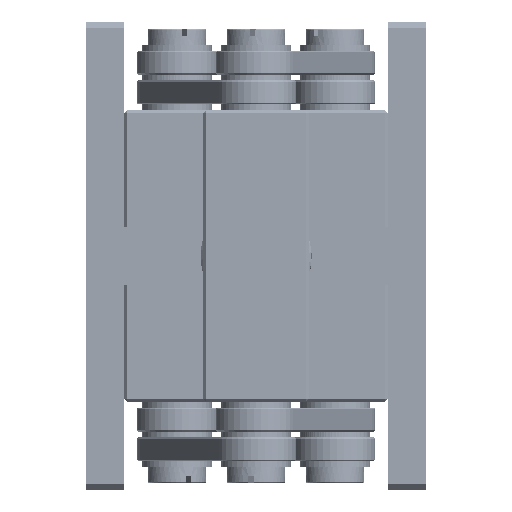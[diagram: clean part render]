
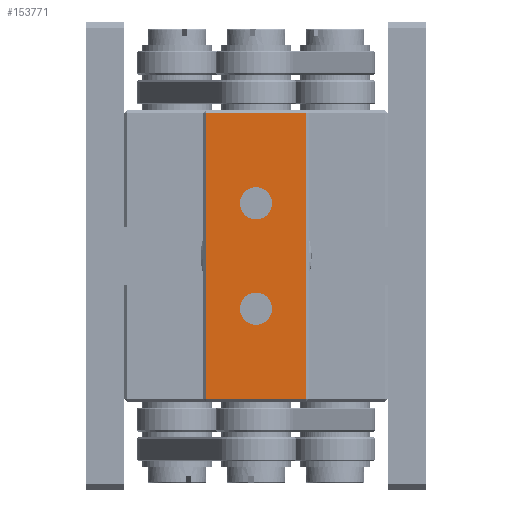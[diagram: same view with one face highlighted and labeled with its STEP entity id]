
A CAD part, left-side view. The second image highlights one B-rep face of the part: STEP entity #153771.
In plain terms, the highlighted planar face has unit normal (-1, 0, 0).
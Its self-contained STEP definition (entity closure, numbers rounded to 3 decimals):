
#967 = EDGE_LOOP ( 'NONE', ( #114399, #43695, #38982, #198750 ) ) ;
#21332 = DIRECTION ( 'NONE',  ( -1., 0., 0. ) ) ;
#29948 = CARTESIAN_POINT ( 'NONE',  ( -1.249, 29., -49. ) ) ;
#31674 = AXIS2_PLACEMENT_3D ( 'NONE', #175216, #21332, #138297 ) ;
#33039 = DIRECTION ( 'NONE',  ( 0., 1., 0. ) ) ;
#38982 = ORIENTED_EDGE ( 'NONE', *, *, #52323, .T. ) ;
#39171 = FACE_BOUND ( 'NONE', #50235, .T. ) ;
#43695 = ORIENTED_EDGE ( 'NONE', *, *, #244205, .T. ) ;
#50235 = EDGE_LOOP ( 'NONE', ( #101489 ) ) ;
#52323 = EDGE_CURVE ( 'NONE', #212645, #183321, #245536, .T. ) ;
#54164 = EDGE_LOOP ( 'NONE', ( #136095 ) ) ;
#70047 = DIRECTION ( 'NONE',  ( 0., 0., 1. ) ) ;
#70915 = VECTOR ( 'NONE', #33039, 1000. ) ;
#71293 = CARTESIAN_POINT ( 'NONE',  ( -1.249, 20.5, -15. ) ) ;
#72060 = EDGE_CURVE ( 'NONE', #212767, #212767, #129087, .T. ) ;
#80465 = EDGE_CURVE ( 'NONE', #217248, #169431, #165956, .T. ) ;
#95721 = EDGE_CURVE ( 'NONE', #183321, #217248, #169039, .T. ) ;
#97657 = PLANE ( 'NONE',  #31674 ) ;
#101489 = ORIENTED_EDGE ( 'NONE', *, *, #187628, .T. ) ;
#104329 = AXIS2_PLACEMENT_3D ( 'NONE', #29948, #114682, #107486 ) ;
#107486 = DIRECTION ( 'NONE',  ( 0., 0., -1. ) ) ;
#114399 = ORIENTED_EDGE ( 'NONE', *, *, #80465, .T. ) ;
#114682 = DIRECTION ( 'NONE',  ( 1., 0., 0. ) ) ;
#129087 = CIRCLE ( 'NONE', #173735, 2.75 ) ;
#132866 = CARTESIAN_POINT ( 'NONE',  ( -1.249, 37.5, -64.5 ) ) ;
#136095 = ORIENTED_EDGE ( 'NONE', *, *, #72060, .T. ) ;
#136917 = VECTOR ( 'NONE', #224463, 1000. ) ;
#138297 = DIRECTION ( 'NONE',  ( 0., 0., 1. ) ) ;
#144462 = VERTEX_POINT ( 'NONE', #222042 ) ;
#148733 = DIRECTION ( 'NONE',  ( 0., 0., -1. ) ) ;
#149945 = CARTESIAN_POINT ( 'NONE',  ( -1.249, 38., -15.5 ) ) ;
#151744 = CARTESIAN_POINT ( 'NONE',  ( -1.249, 20.5, -64.5 ) ) ;
#152493 = DIRECTION ( 'NONE',  ( 1., 0., 0. ) ) ;
#153771 = ADVANCED_FACE ( 'NONE', ( #157360, #39171, #193002 ), #97657, .T. ) ;
#157360 = FACE_BOUND ( 'NONE', #54164, .T. ) ;
#158266 = CARTESIAN_POINT ( 'NONE',  ( -1.249, 20.5, -15.5 ) ) ;
#163435 = CARTESIAN_POINT ( 'NONE',  ( -1.249, 37.5, -65. ) ) ;
#165956 = LINE ( 'NONE', #163435, #136917 ) ;
#169039 = LINE ( 'NONE', #149945, #70915 ) ;
#169431 = VERTEX_POINT ( 'NONE', #132866 ) ;
#173735 = AXIS2_PLACEMENT_3D ( 'NONE', #190656, #152493, #148733 ) ;
#175216 = CARTESIAN_POINT ( 'NONE',  ( -1.249, 20., -15. ) ) ;
#175980 = CARTESIAN_POINT ( 'NONE',  ( -1.249, 20., -64.5 ) ) ;
#180957 = DIRECTION ( 'NONE',  ( 0., -1., 0. ) ) ;
#183321 = VERTEX_POINT ( 'NONE', #158266 ) ;
#187628 = EDGE_CURVE ( 'NONE', #144462, #144462, #226181, .T. ) ;
#190656 = CARTESIAN_POINT ( 'NONE',  ( -1.249, 29., -31. ) ) ;
#190844 = VECTOR ( 'NONE', #70047, 1000. ) ;
#193002 = FACE_OUTER_BOUND ( 'NONE', #967, .T. ) ;
#195269 = VECTOR ( 'NONE', #180957, 1000. ) ;
#198750 = ORIENTED_EDGE ( 'NONE', *, *, #95721, .T. ) ;
#198797 = LINE ( 'NONE', #175980, #195269 ) ;
#207880 = CARTESIAN_POINT ( 'NONE',  ( -1.249, 37.5, -15.5 ) ) ;
#210266 = CARTESIAN_POINT ( 'NONE',  ( -1.249, 29., -33.75 ) ) ;
#212645 = VERTEX_POINT ( 'NONE', #151744 ) ;
#212767 = VERTEX_POINT ( 'NONE', #210266 ) ;
#217248 = VERTEX_POINT ( 'NONE', #207880 ) ;
#222042 = CARTESIAN_POINT ( 'NONE',  ( -1.249, 29., -51.75 ) ) ;
#224463 = DIRECTION ( 'NONE',  ( 0., 0., -1. ) ) ;
#226181 = CIRCLE ( 'NONE', #104329, 2.75 ) ;
#244205 = EDGE_CURVE ( 'NONE', #169431, #212645, #198797, .T. ) ;
#245536 = LINE ( 'NONE', #71293, #190844 ) ;
